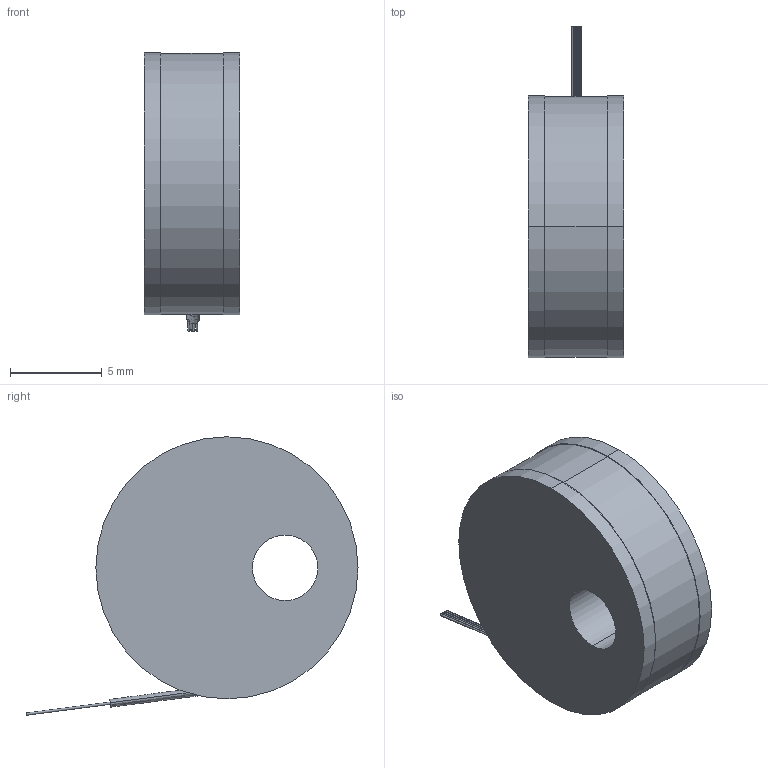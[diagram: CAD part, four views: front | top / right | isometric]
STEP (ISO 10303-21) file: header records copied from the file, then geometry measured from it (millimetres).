
FILE_DESCRIPTION (( 'STEP AP203' ), '1' );
FILE_NAME ('RX-CD.STEP', '2020-05-11T15:34:39', ( '' ), ( '' ), 'SwSTEP 2.0', 'SolidWorks 2020', '' );
FILE_SCHEMA (( 'CONFIG_CONTROL_DESIGN' ));
Length unit declared in the file: millimetre
Products named in the file (1): RX-CD
Bounding box: 5.21 x 18.11 x 15.19 mm (x, y, z)
Volume: 779.6 mm3; surface area: 611 mm2
Topology: 1 solids, 1 shells, 27 faces, 54 edges, 36 vertices
Faces by surface type: cylinder 16, plane 9, bspline 2
Entity records: 889 total; most frequent: CARTESIAN_POINT 252, DIRECTION 118, ORIENTED_EDGE 108, EDGE_CURVE 54, AXIS2_PLACEMENT_3D 50, EDGE_LOOP 36, VERTEX_POINT 36, ADVANCED_FACE 27
